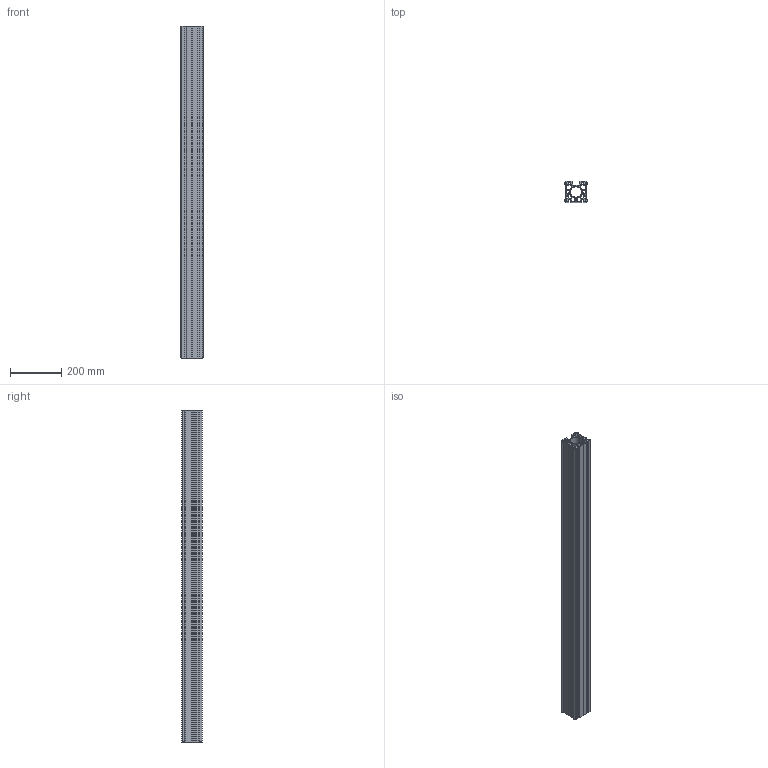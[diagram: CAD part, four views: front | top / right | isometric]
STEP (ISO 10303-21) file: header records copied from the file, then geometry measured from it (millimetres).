
FILE_DESCRIPTION (( 'STEP AP203' ), '1' );
FILE_NAME ('_-_MLF 4 1298 mm lang.step', '2005-09-01T12:46:10', ( ' ' ), ( ' ' ), 'SwSTEP 2.0', 'SolidWorks 2005187', '' );
FILE_SCHEMA (( 'CONFIG_CONTROL_DESIGN' ));
Length unit declared in the file: millimetre
Products named in the file (1): _-_MLF 4  1298 mm lang
Bounding box: 87.6 x 80 x 1298 mm (x, y, z)
Volume: 2990445.8 mm3; surface area: 1605770.9 mm2
Topology: 1 solids, 1 shells, 248 faces, 762 edges, 500 vertices
Faces by surface type: plane 174, cylinder 74
Entity records: 8575 total; most frequent: ORIENTED_EDGE 1524, CARTESIAN_POINT 1511, DIRECTION 1408, EDGE_CURVE 762, VECTOR 614, LINE 614, VERTEX_POINT 500, AXIS2_PLACEMENT_3D 397
